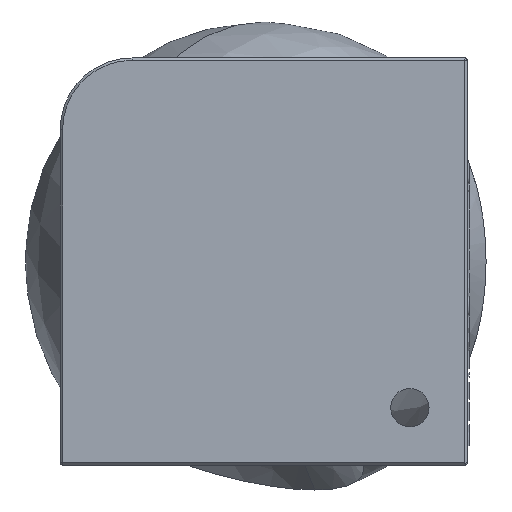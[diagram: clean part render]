
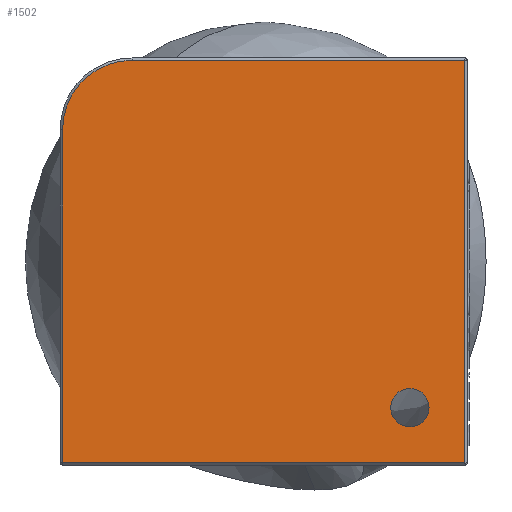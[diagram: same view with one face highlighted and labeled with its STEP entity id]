
A CAD part, front view. The second image highlights one B-rep face of the part: STEP entity #1502.
In plain terms, the highlighted planar face has unit normal (0, -1, 0).
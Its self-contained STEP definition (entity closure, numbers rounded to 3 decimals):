
#960 = DIRECTION ( 'NONE',  ( 0., 0., 1. ) ) ;
#1485 = ORIENTED_EDGE ( 'NONE', *, *, #9909, .T. ) ;
#1502 = ADVANCED_FACE ( 'NONE', ( #8032, #13537 ), #8240, .F. ) ;
#1978 = LINE ( 'NONE', #7288, #2720 ) ;
#2155 = EDGE_CURVE ( 'NONE', #10637, #5570, #5426, .T. ) ;
#2181 = DIRECTION ( 'NONE',  ( 0., 0., -1. ) ) ;
#2220 = EDGE_CURVE ( 'NONE', #5570, #10637, #4757, .T. ) ;
#2720 = VECTOR ( 'NONE', #4139, 1000. ) ;
#2728 = DIRECTION ( 'NONE',  ( 0., 1., 0. ) ) ;
#2756 = AXIS2_PLACEMENT_3D ( 'NONE', #8985, #3918, #12372 ) ;
#2807 = ORIENTED_EDGE ( 'NONE', *, *, #9930, .T. ) ;
#2955 = AXIS2_PLACEMENT_3D ( 'NONE', #12488, #2728, #960 ) ;
#2968 = AXIS2_PLACEMENT_3D ( 'NONE', #6820, #4712, #8531 ) ;
#3086 = CARTESIAN_POINT ( 'NONE',  ( 42., 0., 42. ) ) ;
#3918 = DIRECTION ( 'NONE',  ( 0., 1., 0. ) ) ;
#4139 = DIRECTION ( 'NONE',  ( -1., 0., 0. ) ) ;
#4568 = EDGE_CURVE ( 'NONE', #8577, #5478, #1978, .T. ) ;
#4664 = CARTESIAN_POINT ( 'NONE',  ( 42., 0., 0. ) ) ;
#4712 = DIRECTION ( 'NONE',  ( 0., 1., 0. ) ) ;
#4757 = CIRCLE ( 'NONE', #2968, 4. ) ;
#5146 = CIRCLE ( 'NONE', #8046, 14.5 ) ;
#5194 = CARTESIAN_POINT ( 'NONE',  ( 0., 0., -42. ) ) ;
#5203 = CARTESIAN_POINT ( 'NONE',  ( -42., 0., -42. ) ) ;
#5254 = EDGE_CURVE ( 'NONE', #13485, #8577, #7955, .T. ) ;
#5426 = CIRCLE ( 'NONE', #2756, 4. ) ;
#5478 = VERTEX_POINT ( 'NONE', #10649 ) ;
#5569 = DIRECTION ( 'NONE',  ( 1., 0., 0. ) ) ;
#5570 = VERTEX_POINT ( 'NONE', #9955 ) ;
#5766 = ORIENTED_EDGE ( 'NONE', *, *, #2220, .T. ) ;
#6592 = LINE ( 'NONE', #11757, #12741 ) ;
#6693 = CARTESIAN_POINT ( 'NONE',  ( -27.5, 0., 27.5 ) ) ;
#6820 = CARTESIAN_POINT ( 'NONE',  ( 30.5, 0., -30.5 ) ) ;
#6916 = EDGE_LOOP ( 'NONE', ( #5766, #9965 ) ) ;
#7288 = CARTESIAN_POINT ( 'NONE',  ( 0., 0., 42. ) ) ;
#7955 = LINE ( 'NONE', #4664, #11097 ) ;
#8032 = FACE_OUTER_BOUND ( 'NONE', #9617, .T. ) ;
#8046 = AXIS2_PLACEMENT_3D ( 'NONE', #6693, #11082, #11010 ) ;
#8240 = PLANE ( 'NONE',  #2955 ) ;
#8531 = DIRECTION ( 'NONE',  ( 0., 0., 1. ) ) ;
#8577 = VERTEX_POINT ( 'NONE', #3086 ) ;
#8710 = CARTESIAN_POINT ( 'NONE',  ( 30.5, 0., -34.5 ) ) ;
#8905 = ORIENTED_EDGE ( 'NONE', *, *, #11251, .T. ) ;
#8950 = VECTOR ( 'NONE', #5569, 1000. ) ;
#8985 = CARTESIAN_POINT ( 'NONE',  ( 30.5, 0., -30.5 ) ) ;
#9259 = CARTESIAN_POINT ( 'NONE',  ( 42., 0., -42. ) ) ;
#9617 = EDGE_LOOP ( 'NONE', ( #8905, #1485, #9747, #11170, #2807 ) ) ;
#9747 = ORIENTED_EDGE ( 'NONE', *, *, #5254, .T. ) ;
#9903 = DIRECTION ( 'NONE',  ( 0., 0., 1. ) ) ;
#9909 = EDGE_CURVE ( 'NONE', #11046, #13485, #10484, .T. ) ;
#9930 = EDGE_CURVE ( 'NONE', #5478, #12199, #5146, .T. ) ;
#9955 = CARTESIAN_POINT ( 'NONE',  ( 30.5, 0., -26.5 ) ) ;
#9965 = ORIENTED_EDGE ( 'NONE', *, *, #2155, .T. ) ;
#10484 = LINE ( 'NONE', #5194, #8950 ) ;
#10637 = VERTEX_POINT ( 'NONE', #8710 ) ;
#10649 = CARTESIAN_POINT ( 'NONE',  ( -27.5, 0., 42. ) ) ;
#10712 = CARTESIAN_POINT ( 'NONE',  ( -42., 0., 27.5 ) ) ;
#11010 = DIRECTION ( 'NONE',  ( 0., 0., 1. ) ) ;
#11046 = VERTEX_POINT ( 'NONE', #5203 ) ;
#11082 = DIRECTION ( 'NONE',  ( 0., -1., 0. ) ) ;
#11097 = VECTOR ( 'NONE', #9903, 1000. ) ;
#11170 = ORIENTED_EDGE ( 'NONE', *, *, #4568, .T. ) ;
#11251 = EDGE_CURVE ( 'NONE', #12199, #11046, #6592, .T. ) ;
#11757 = CARTESIAN_POINT ( 'NONE',  ( -42., 0., 0. ) ) ;
#12199 = VERTEX_POINT ( 'NONE', #10712 ) ;
#12372 = DIRECTION ( 'NONE',  ( 0., 0., 1. ) ) ;
#12488 = CARTESIAN_POINT ( 'NONE',  ( 0., 0., 0. ) ) ;
#12741 = VECTOR ( 'NONE', #2181, 1000. ) ;
#13485 = VERTEX_POINT ( 'NONE', #9259 ) ;
#13537 = FACE_BOUND ( 'NONE', #6916, .T. ) ;
